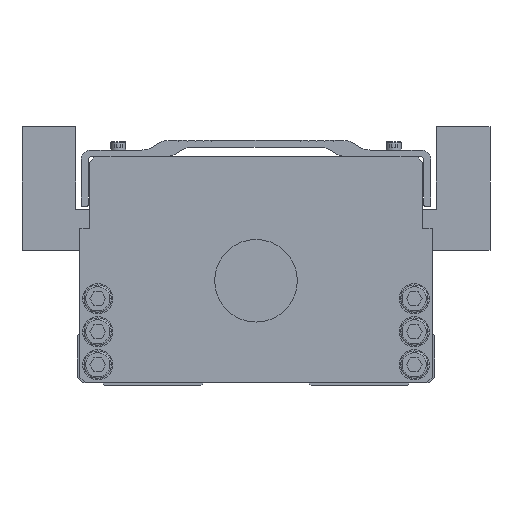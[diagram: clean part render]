
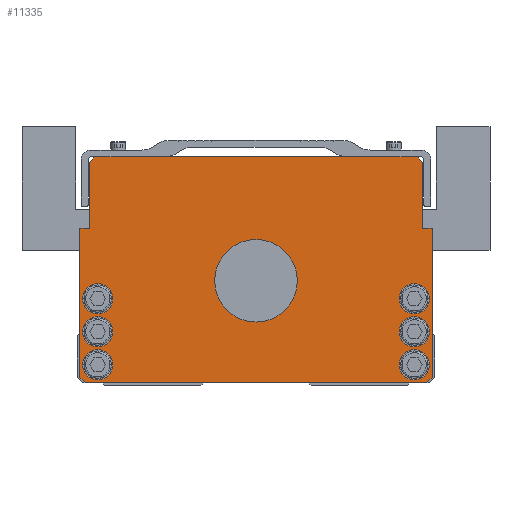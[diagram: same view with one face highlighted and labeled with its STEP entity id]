
A CAD part, front view. The second image highlights one B-rep face of the part: STEP entity #11335.
In plain terms, the highlighted planar face has unit normal (0, -1, 0).
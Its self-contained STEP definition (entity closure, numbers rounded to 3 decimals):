
#5489=EDGE_CURVE('',#10419,#14679,#15501,.T.);
#5531=EDGE_CURVE('',#8457,#6441,#15548,.T.);
#5615=EDGE_CURVE('',#10707,#7741,#15645,.T.);
#5647=VERTEX_POINT('',#15678);
#5969=VERTEX_POINT('',#16041);
#5977=EDGE_CURVE('',#5647,#6635,#16049,.T.);
#6125=EDGE_CURVE('',#10951,#12313,#16217,.T.);
#6301=EDGE_CURVE('',#11669,#13983,#16406,.T.);
#6441=VERTEX_POINT('',#16562);
#6555=EDGE_CURVE('',#9639,#13223,#16693,.T.);
#6577=EDGE_CURVE('',#14239,#5969,#16716,.T.);
#6635=VERTEX_POINT('',#16782);
#7173=EDGE_CURVE('',#9195,#14275,#17381,.T.);
#7253=VERTEX_POINT('',#17473);
#7647=EDGE_CURVE('',#6635,#7651,#17918,.T.);
#7651=VERTEX_POINT('',#17922);
#7741=VERTEX_POINT('',#18026);
#8155=EDGE_CURVE('',#12225,#11669,#18488,.T.);
#8457=VERTEX_POINT('',#18824);
#9123=EDGE_CURVE('',#11833,#10247,#19562,.T.);
#9195=VERTEX_POINT('',#19642);
#9221=EDGE_CURVE('',#7741,#10419,#19669,.T.);
#9287=EDGE_CURVE('',#6441,#8457,#19742,.T.);
#9639=VERTEX_POINT('',#20124);
#9651=VERTEX_POINT('',#20137);
#9783=EDGE_CURVE('',#12391,#10267,#20284,.T.);
#9923=EDGE_CURVE('',#10267,#12391,#20436,.T.);
#9927=VERTEX_POINT('',#20440);
#10053=EDGE_CURVE('',#14679,#12225,#20583,.T.);
#10061=EDGE_CURVE('',#14275,#9195,#20593,.T.);
#10247=VERTEX_POINT('',#20789);
#10267=VERTEX_POINT('',#20815);
#10419=VERTEX_POINT('',#20988);
#10707=VERTEX_POINT('',#21310);
#10849=EDGE_CURVE('',#5969,#14239,#21457,.T.);
#10951=VERTEX_POINT('',#21570);
#11119=EDGE_CURVE('',#10247,#11833,#21752,.T.);
#11129=EDGE_CURVE('',#12313,#10951,#21763,.T.);
#11335=ADVANCED_FACE('',(#21988,#21989,#21990,#21991,#21992,#21993,#21994,#21995),#21996,.T.);
#11669=VERTEX_POINT('',#22388);
#11833=VERTEX_POINT('',#22573);
#12131=EDGE_CURVE('',#13223,#9639,#22904,.T.);
#12225=VERTEX_POINT('',#23009);
#12251=EDGE_CURVE('',#7651,#7253,#23036,.T.);
#12313=VERTEX_POINT('',#23101);
#12391=VERTEX_POINT('',#23183);
#12417=EDGE_CURVE('',#9927,#9651,#23213,.T.);
#13223=VERTEX_POINT('',#24100);
#13389=VERTEX_POINT('',#24292);
#13581=EDGE_CURVE('',#13389,#10707,#24501,.T.);
#13617=EDGE_CURVE('',#7253,#13389,#24543,.T.);
#13983=VERTEX_POINT('',#24942);
#14095=EDGE_CURVE('',#13983,#9927,#25068,.T.);
#14229=EDGE_CURVE('',#9651,#5647,#25216,.T.);
#14239=VERTEX_POINT('',#25227);
#14275=VERTEX_POINT('',#25267);
#14679=VERTEX_POINT('',#25724);
#15501=LINE('',#26750,#26751);
#15548=CIRCLE('',#26816,5.5);
#15645=LINE('',#26943,#26944);
#15678=CARTESIAN_POINT('',(64.0,0.0,57.0));
#16041=CARTESIAN_POINT('',(-52.0,0.0,31.5));
#16049=LINE('',#27473,#27474);
#16217=CIRCLE('',#27700,15.0);
#16406=LINE('',#27969,#27970);
#16562=CARTESIAN_POINT('',(63.0,0.0,19.5));
#16693=CIRCLE('',#28360,5.5);
#16716=CIRCLE('',#28393,5.5);
#16782=CARTESIAN_POINT('',(64.0,0.0,3.0));
#17381=CIRCLE('',#29310,5.5);
#17473=CARTESIAN_POINT('',(-62.0,0.0,1.0));
#17918=LINE('',#30062,#30063);
#17922=CARTESIAN_POINT('',(62.0,0.0,1.0));
#18026=CARTESIAN_POINT('',(-60.5,0.0,57.0));
#18488=LINE('',#30847,#30848);
#18824=CARTESIAN_POINT('',(52.0,0.0,19.5));
#19562=CIRCLE('',#32322,5.5);
#19642=CARTESIAN_POINT('',(63.0,0.0,31.5));
#19669=LINE('',#32475,#32476);
#19742=CIRCLE('',#32573,5.5);
#20124=CARTESIAN_POINT('',(63.0,0.0,7.5));
#20137=CARTESIAN_POINT('',(60.5,0.0,57.0));
#20284=CIRCLE('',#33335,5.5);
#20436=CIRCLE('',#33556,5.5);
#20440=CARTESIAN_POINT('',(60.5,0.0,81.0));
#20583=LINE('',#33758,#33759);
#20593=CIRCLE('',#33770,5.5);
#20789=CARTESIAN_POINT('',(-52.0,0.0,7.5));
#20815=CARTESIAN_POINT('',(-63.0,0.0,19.5));
#20988=CARTESIAN_POINT('',(-60.5,0.0,81.0));
#21310=CARTESIAN_POINT('',(-64.0,0.0,57.0));
#21457=CIRCLE('',#34955,5.5);
#21570=CARTESIAN_POINT('',(-15.0,0.0,38.0));
#21752=CIRCLE('',#35355,5.5);
#21763=CIRCLE('',#35372,15.0);
#21988=FACE_BOUND('',#35674,.T.);
#21989=FACE_BOUND('',#35675,.T.);
#21990=FACE_BOUND('',#35676,.T.);
#21991=FACE_BOUND('',#35677,.T.);
#21992=FACE_BOUND('',#35678,.T.);
#21993=FACE_BOUND('',#35679,.T.);
#21994=FACE_BOUND('',#35680,.T.);
#21995=FACE_OUTER_BOUND('',#35681,.T.);
#21996=PLANE('',#35682);
#22388=CARTESIAN_POINT('',(33.25,0.0,83.0));
#22573=CARTESIAN_POINT('',(-63.0,0.0,7.5));
#22904=CIRCLE('',#36914,5.5);
#23009=CARTESIAN_POINT('',(-33.25,0.0,83.0));
#23036=LINE('',#37100,#37101);
#23101=CARTESIAN_POINT('',(15.0,0.0,38.0));
#23183=CARTESIAN_POINT('',(-52.0,0.0,19.5));
#23213=LINE('',#37348,#37349);
#24100=CARTESIAN_POINT('',(52.0,0.0,7.5));
#24292=CARTESIAN_POINT('',(-64.0,0.0,3.0));
#24501=LINE('',#39142,#39143);
#24543=LINE('',#39200,#39201);
#24942=CARTESIAN_POINT('',(58.5,0.0,83.0));
#25068=LINE('',#39940,#39941);
#25216=LINE('',#40148,#40149);
#25227=CARTESIAN_POINT('',(-63.0,0.0,31.5));
#25267=CARTESIAN_POINT('',(52.0,0.0,31.5));
#25724=CARTESIAN_POINT('',(-58.5,0.0,83.0));
#26750=CARTESIAN_POINT('',(-58.5,0.0,83.0));
#26751=VECTOR('',#41979,1.);
#26816=AXIS2_PLACEMENT_3D('',#42038,#42039,#42040);
#26943=CARTESIAN_POINT('',(-60.5,0.0,57.0));
#26944=VECTOR('',#42187,1.0);
#27473=CARTESIAN_POINT('',(64.0,0.0,3.0));
#27474=VECTOR('',#42617,1.0);
#27700=AXIS2_PLACEMENT_3D('',#42833,#42834,#42835);
#27969=CARTESIAN_POINT('',(58.5,0.0,83.0));
#27970=VECTOR('',#43012,1.0);
#28360=AXIS2_PLACEMENT_3D('',#43365,#43366,#43367);
#28393=AXIS2_PLACEMENT_3D('',#43388,#43389,#43390);
#29310=AXIS2_PLACEMENT_3D('',#44119,#44120,#44121);
#30062=CARTESIAN_POINT('',(62.0,0.0,1.0));
#30063=VECTOR('',#44794,1.);
#30847=CARTESIAN_POINT('',(58.5,0.0,83.0));
#30848=VECTOR('',#45457,1.0);
#32322=AXIS2_PLACEMENT_3D('',#46593,#46594,#46595);
#32475=CARTESIAN_POINT('',(-60.5,0.0,81.0));
#32476=VECTOR('',#46705,1.0);
#32573=AXIS2_PLACEMENT_3D('',#46811,#46812,#46813);
#33335=AXIS2_PLACEMENT_3D('',#47412,#47413,#47414);
#33556=AXIS2_PLACEMENT_3D('',#47558,#47559,#47560);
#33758=CARTESIAN_POINT('',(58.5,0.0,83.0));
#33759=VECTOR('',#47741,1.0);
#33770=AXIS2_PLACEMENT_3D('',#47758,#47759,#47760);
#34955=AXIS2_PLACEMENT_3D('',#48639,#48640,#48641);
#35355=AXIS2_PLACEMENT_3D('',#48968,#48969,#48970);
#35372=AXIS2_PLACEMENT_3D('',#48982,#48983,#48984);
#35674=EDGE_LOOP('',(#49296,#49297));
#35675=EDGE_LOOP('',(#49298,#49299));
#35676=EDGE_LOOP('',(#49300,#49301));
#35677=EDGE_LOOP('',(#49302,#49303));
#35678=EDGE_LOOP('',(#49304,#49305));
#35679=EDGE_LOOP('',(#49306,#49307));
#35680=EDGE_LOOP('',(#49308,#49309));
#35681=EDGE_LOOP('',(#49310,#49311,#49312,#49313,#49314,#49315,#49316,#49317,#49318,#49319,#49320,#49321,#49322,#49323));
#35682=AXIS2_PLACEMENT_3D('',#49324,#49325,#49326);
#36914=AXIS2_PLACEMENT_3D('',#50444,#50445,#50446);
#37100=CARTESIAN_POINT('',(-62.0,0.0,1.0));
#37101=VECTOR('',#50594,1.0);
#37348=CARTESIAN_POINT('',(60.5,0.0,57.0));
#37349=VECTOR('',#50753,1.0);
#39142=CARTESIAN_POINT('',(-64.0,0.0,57.0));
#39143=VECTOR('',#52161,1.0);
#39200=CARTESIAN_POINT('',(-64.0,0.0,3.0));
#39201=VECTOR('',#52222,1.);
#39940=CARTESIAN_POINT('',(60.5,0.0,81.0));
#39941=VECTOR('',#52809,1.);
#40148=CARTESIAN_POINT('',(64.0,0.0,57.0));
#40149=VECTOR('',#52979,1.0);
#41979=DIRECTION('',(0.707,0.0,0.707));
#42038=CARTESIAN_POINT('',(57.5,0.0,19.5));
#42039=DIRECTION('',(-0.0,1.0,0.0));
#42040=DIRECTION('',(1.0,0.0,0.0));
#42187=DIRECTION('',(1.0,0.0,0.0));
#42617=DIRECTION('',(-0.0,0.0,-1.0));
#42833=CARTESIAN_POINT('',(0.0,0.0,38.0));
#42834=DIRECTION('',(-0.0,1.0,0.0));
#42835=DIRECTION('',(1.0,0.0,0.0));
#43012=DIRECTION('',(1.0,0.0,0.0));
#43365=CARTESIAN_POINT('',(57.5,0.0,7.5));
#43366=DIRECTION('',(-0.0,1.0,0.0));
#43367=DIRECTION('',(1.0,0.0,0.0));
#43388=CARTESIAN_POINT('',(-57.5,0.0,31.5));
#43389=DIRECTION('',(-0.0,1.0,0.0));
#43390=DIRECTION('',(1.0,0.0,0.0));
#44119=CARTESIAN_POINT('',(57.5,0.0,31.5));
#44120=DIRECTION('',(-0.0,1.0,0.0));
#44121=DIRECTION('',(1.0,0.0,0.0));
#44794=DIRECTION('',(-0.707,0.0,-0.707));
#45457=DIRECTION('',(1.0,0.0,0.0));
#46593=CARTESIAN_POINT('',(-57.5,0.0,7.5));
#46594=DIRECTION('',(-0.0,1.0,0.0));
#46595=DIRECTION('',(1.0,0.0,0.0));
#46705=DIRECTION('',(0.0,0.0,1.0));
#46811=CARTESIAN_POINT('',(57.5,0.0,19.5));
#46812=DIRECTION('',(-0.0,1.0,0.0));
#46813=DIRECTION('',(1.0,0.0,0.0));
#47412=CARTESIAN_POINT('',(-57.5,0.0,19.5));
#47413=DIRECTION('',(-0.0,1.0,0.0));
#47414=DIRECTION('',(1.0,0.0,0.0));
#47558=CARTESIAN_POINT('',(-57.5,0.0,19.5));
#47559=DIRECTION('',(-0.0,1.0,0.0));
#47560=DIRECTION('',(1.0,0.0,0.0));
#47741=DIRECTION('',(1.0,0.0,0.0));
#47758=CARTESIAN_POINT('',(57.5,0.0,31.5));
#47759=DIRECTION('',(-0.0,1.0,0.0));
#47760=DIRECTION('',(1.0,0.0,0.0));
#48639=CARTESIAN_POINT('',(-57.5,0.0,31.5));
#48640=DIRECTION('',(-0.0,1.0,0.0));
#48641=DIRECTION('',(1.0,0.0,0.0));
#48968=CARTESIAN_POINT('',(-57.5,0.0,7.5));
#48969=DIRECTION('',(-0.0,1.0,0.0));
#48970=DIRECTION('',(1.0,0.0,0.0));
#48982=CARTESIAN_POINT('',(0.0,0.0,38.0));
#48983=DIRECTION('',(-0.0,1.0,0.0));
#48984=DIRECTION('',(1.0,0.0,0.0));
#49296=ORIENTED_EDGE('',*,*,#11129,.T.);
#49297=ORIENTED_EDGE('',*,*,#6125,.T.);
#49298=ORIENTED_EDGE('',*,*,#7173,.T.);
#49299=ORIENTED_EDGE('',*,*,#10061,.T.);
#49300=ORIENTED_EDGE('',*,*,#9287,.T.);
#49301=ORIENTED_EDGE('',*,*,#5531,.T.);
#49302=ORIENTED_EDGE('',*,*,#6555,.T.);
#49303=ORIENTED_EDGE('',*,*,#12131,.T.);
#49304=ORIENTED_EDGE('',*,*,#10849,.T.);
#49305=ORIENTED_EDGE('',*,*,#6577,.T.);
#49306=ORIENTED_EDGE('',*,*,#9783,.T.);
#49307=ORIENTED_EDGE('',*,*,#9923,.T.);
#49308=ORIENTED_EDGE('',*,*,#11119,.T.);
#49309=ORIENTED_EDGE('',*,*,#9123,.T.);
#49310=ORIENTED_EDGE('',*,*,#13617,.F.);
#49311=ORIENTED_EDGE('',*,*,#12251,.F.);
#49312=ORIENTED_EDGE('',*,*,#7647,.F.);
#49313=ORIENTED_EDGE('',*,*,#5977,.F.);
#49314=ORIENTED_EDGE('',*,*,#14229,.F.);
#49315=ORIENTED_EDGE('',*,*,#12417,.F.);
#49316=ORIENTED_EDGE('',*,*,#14095,.F.);
#49317=ORIENTED_EDGE('',*,*,#6301,.F.);
#49318=ORIENTED_EDGE('',*,*,#8155,.F.);
#49319=ORIENTED_EDGE('',*,*,#10053,.F.);
#49320=ORIENTED_EDGE('',*,*,#5489,.F.);
#49321=ORIENTED_EDGE('',*,*,#9221,.F.);
#49322=ORIENTED_EDGE('',*,*,#5615,.F.);
#49323=ORIENTED_EDGE('',*,*,#13581,.F.);
#49324=CARTESIAN_POINT('',(0.,0.0,41.562));
#49325=DIRECTION('',(0.0,-1.0,0.0));
#49326=DIRECTION('',(1.0,0.0,0.0));
#50444=CARTESIAN_POINT('',(57.5,0.0,7.5));
#50445=DIRECTION('',(-0.0,1.0,0.0));
#50446=DIRECTION('',(1.0,0.0,0.0));
#50594=DIRECTION('',(-1.0,0.0,-0.0));
#50753=DIRECTION('',(-0.0,0.0,-1.0));
#52161=DIRECTION('',(0.0,0.0,1.0));
#52222=DIRECTION('',(-0.707,0.0,0.707));
#52809=DIRECTION('',(0.707,0.0,-0.707));
#52979=DIRECTION('',(1.0,0.0,0.0));
